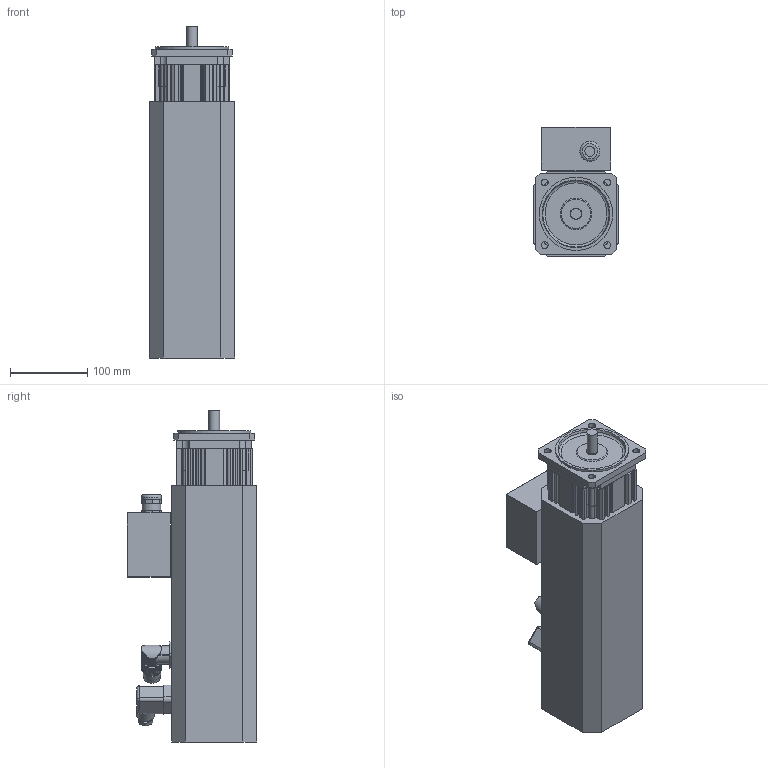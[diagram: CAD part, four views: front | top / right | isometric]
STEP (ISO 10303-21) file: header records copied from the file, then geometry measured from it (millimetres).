
FILE_DESCRIPTION(/* description */ (''),/* implementation_level */ '2;1');
FILE_NAME(/* name */ 'KSA449_MC_FS_Ix',/* time_stamp */ '2009-02-26T14:38:45+01:00',/* author */ (''),/* organization */ (''),/* preprocessor_version */ 'ST-DEVELOPER v8',/* originating_system */ 'UNIGRAPHICS SOLUTIONS - UNIGRAPHICS 18.0',/* authorisation */ '');
FILE_SCHEMA (('AUTOMOTIVE_DESIGN { 1 2 10303 214 0 1 1 1 }'));
Length unit declared in the file: millimetre
Products named in the file (8): 0280391350_0; 014146_0; 014145_0; Winkelflanschdose_0; Lagersch4AS_0; 089105X_0; Klemmenkasten_0; KSA444_MC_FS_Ix_0
Assembly tree (7 placements, depth 3):
  KSA444_MC_FS_Ix_0
    089105X_0
    Lagersch4AS_0
    Winkelflanschdose_0
    Klemmenkasten_0
      0280391350_0
    014145_0
    014146_0
Bounding box: 110.7 x 168.2 x 431 mm (x, y, z)
Volume: 4873484.8 mm3; surface area: 372244.1 mm2
Topology: 8 solids, 8 shells, 705 faces, 1944 edges, 1275 vertices
Faces by surface type: cylinder 402, plane 279, cone 8, sphere 8, torus 4, bspline 4
Full cylindrical faces by diameter (mm): 3.2 x1, 3.5 x4, 4.5 x1, 5 x2, 6.5 x4, 9 x4, 13 x2, 14 x1, 15 x1, 16 x1, 17 x1, 18 x1, 20 x2, 21 x1, 21.5 x1, 22.5 x1, 23 x2, 24 x1, 26 x1, 89.6 x2, 91 x1, 95 x1
Entity records: 22938 total; most frequent: CARTESIAN_POINT 4603, DIRECTION 3854, ORIENTED_EDGE 3760, EDGE_CURVE 1880, AXIS2_PLACEMENT_3D 1421, VERTEX_POINT 1263, LINE 1012, VECTOR 1012
